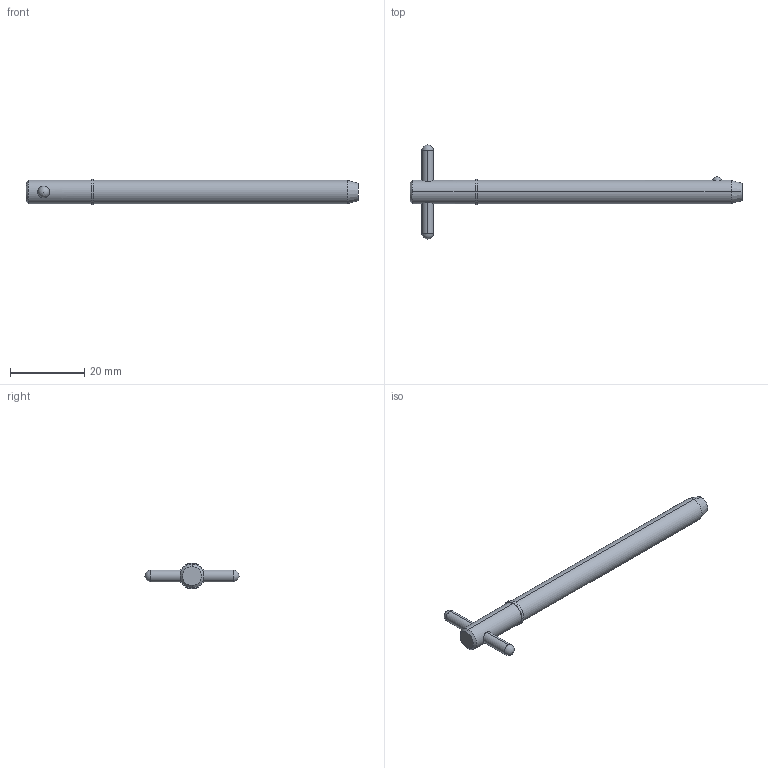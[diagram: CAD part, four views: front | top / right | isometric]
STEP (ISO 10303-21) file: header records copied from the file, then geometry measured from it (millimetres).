
FILE_DESCRIPTION (( 'STEP AP203' ), '1' );
FILE_NAME ('33018.W2525.step', '2024-11-19T17:08:30', ( '' ), ( '' ), 'SwSTEP 2.0', 'SolidWorks 2019', '' );
FILE_SCHEMA (( 'CONFIG_CONTROL_DESIGN' ));
Length unit declared in the file: millimetre
Products named in the file (3): Part2_33018.W2525; 33018.W2525; Part1_33018.W2525
Assembly tree (2 placements, depth 2):
  33018.W2525
    Part1_33018.W2525
    Part2_33018.W2525
Bounding box: 89.71 x 25.4 x 6.99 mm (x, y, z)
Volume: 2966.3 mm3; surface area: 2139.2 mm2
Topology: 2 solids, 2 shells, 22 faces, 47 edges, 30 vertices
Faces by surface type: cylinder 10, sphere 4, cone 4, plane 4
Entity records: 993 total; most frequent: CARTESIAN_POINT 236, DIRECTION 110, ORIENTED_EDGE 82, AXIS2_PLACEMENT_3D 48, EDGE_CURVE 41, EDGE_LOOP 27, VERTEX_POINT 26, PERSON_AND_ORGANIZATION 26
